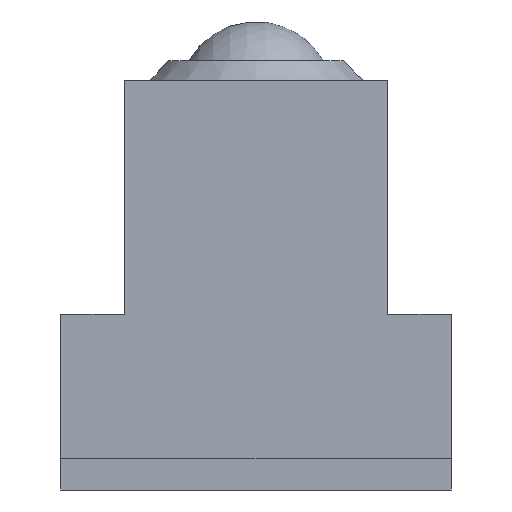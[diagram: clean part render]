
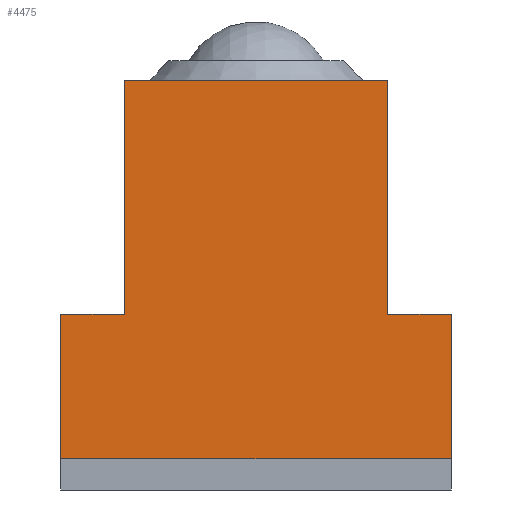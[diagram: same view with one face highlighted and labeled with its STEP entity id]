
A CAD part, left-side view. The second image highlights one B-rep face of the part: STEP entity #4475.
In plain terms, the highlighted planar face has unit normal (-1, 0, 0) as drawn and (0, 0, -1) by its records, which use the part's own axes.
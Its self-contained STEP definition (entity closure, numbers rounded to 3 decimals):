
#426=LINE('',#7141,#628);
#430=LINE('',#7148,#632);
#431=LINE('',#7152,#633);
#435=LINE('',#7159,#637);
#439=LINE('',#7166,#641);
#440=LINE('',#7169,#642);
#443=LINE('',#7175,#645);
#446=LINE('',#7180,#648);
#628=VECTOR('',#5742,24.);
#632=VECTOR('',#5748,27.);
#633=VECTOR('',#5751,14.8);
#637=VECTOR('',#5757,6.5);
#641=VECTOR('',#5763,24.);
#642=VECTOR('',#5766,6.5);
#645=VECTOR('',#5771,14.8);
#648=VECTOR('',#5776,40.);
#827=PLANE('',#4887);
#1369=FACE_OUTER_BOUND('',#1807,.T.);
#1807=EDGE_LOOP('',(#3598,#3599,#3600,#3601,#3602,#3603,#3604,#3605));
#2504=VERTEX_POINT('',#7138);
#2505=VERTEX_POINT('',#7140);
#2507=VERTEX_POINT('',#7146);
#2508=VERTEX_POINT('',#7150);
#2509=VERTEX_POINT('',#7151);
#2513=VERTEX_POINT('',#7164);
#2514=VERTEX_POINT('',#7168);
#2516=VERTEX_POINT('',#7174);
#2920=EDGE_CURVE('',#2504,#2505,#426,.T.);
#2924=EDGE_CURVE('',#2507,#2504,#430,.T.);
#2925=EDGE_CURVE('',#2508,#2509,#431,.T.);
#2929=EDGE_CURVE('',#2505,#2508,#435,.T.);
#2933=EDGE_CURVE('',#2513,#2507,#439,.T.);
#2934=EDGE_CURVE('',#2514,#2513,#440,.T.);
#2937=EDGE_CURVE('',#2516,#2514,#443,.T.);
#2940=EDGE_CURVE('',#2509,#2516,#446,.T.);
#3598=ORIENTED_EDGE('',*,*,#2940,.F.);
#3599=ORIENTED_EDGE('',*,*,#2925,.F.);
#3600=ORIENTED_EDGE('',*,*,#2929,.F.);
#3601=ORIENTED_EDGE('',*,*,#2920,.F.);
#3602=ORIENTED_EDGE('',*,*,#2924,.F.);
#3603=ORIENTED_EDGE('',*,*,#2933,.F.);
#3604=ORIENTED_EDGE('',*,*,#2934,.F.);
#3605=ORIENTED_EDGE('',*,*,#2937,.F.);
#4475=ADVANCED_FACE('',(#1369),#827,.F.);
#4887=AXIS2_PLACEMENT_3D('',#7183,#5780,#5781);
#5742=DIRECTION('',(0.,-1.,0.));
#5748=DIRECTION('',(-1.,0.,0.));
#5751=DIRECTION('',(0.,-1.,0.));
#5757=DIRECTION('',(-1.,0.,0.));
#5763=DIRECTION('',(0.,1.,0.));
#5766=DIRECTION('',(-1.,0.,0.));
#5771=DIRECTION('',(0.,1.,0.));
#5776=DIRECTION('',(1.,0.,0.));
#5780=DIRECTION('center_axis',(0.,0.,1.));
#5781=DIRECTION('ref_axis',(1.,0.,0.));
#7138=CARTESIAN_POINT('',(-13.5,38.8,0.));
#7140=CARTESIAN_POINT('',(-13.5,14.8,0.));
#7141=CARTESIAN_POINT('',(-13.5,38.8,0.));
#7146=CARTESIAN_POINT('',(13.5,38.8,0.));
#7148=CARTESIAN_POINT('',(13.5,38.8,0.));
#7150=CARTESIAN_POINT('',(-20.,14.8,0.));
#7151=CARTESIAN_POINT('',(-20.,0.,0.));
#7152=CARTESIAN_POINT('',(-20.,14.8,0.));
#7159=CARTESIAN_POINT('',(-13.5,14.8,0.));
#7164=CARTESIAN_POINT('',(13.5,14.8,0.));
#7166=CARTESIAN_POINT('',(13.5,14.8,0.));
#7168=CARTESIAN_POINT('',(20.,14.8,0.));
#7169=CARTESIAN_POINT('',(20.,14.8,0.));
#7174=CARTESIAN_POINT('',(20.,0.,0.));
#7175=CARTESIAN_POINT('',(20.,0.,0.));
#7180=CARTESIAN_POINT('',(-20.,0.,0.));
#7183=CARTESIAN_POINT('Origin',(0.,17.42,
0.));
